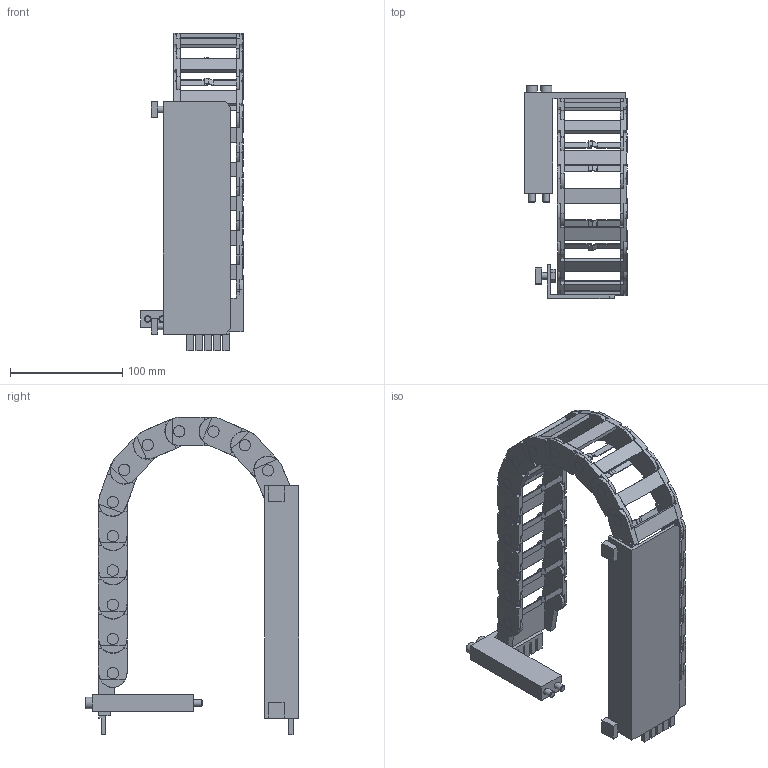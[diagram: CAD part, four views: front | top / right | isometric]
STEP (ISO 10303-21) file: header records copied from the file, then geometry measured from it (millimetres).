
FILE_DESCRIPTION( ( 'STEP AP214' ), '1' );
FILE_NAME( 'U:/Etudes/Top Solid/BIBLIO 3D AVM/STEP/STEP2007LINMOT/8319332.step', '2007-06-07T08:51:28', ( ' ' ), ( ' ' ), 'XStep 1.0', ' ', ' ' );
FILE_SCHEMA( ( 'automotive_design' ) );
Length unit declared in the file: metre
Products named in the file (19): 1; 2; 3; 4; 5; 6; 7; 8; 9; 10; 11; 12; 13; 14; 15; 16; 17; 18; 19
Bounding box: 91 x 190 x 283.21 mm (x, y, z)
Volume: 313407.5 mm3; surface area: 213574.7 mm2
Topology: 19 solids, 21 shells, 1496 faces, 4209 edges, 2805 vertices
Faces by surface type: plane 1133, cylinder 361, cone 2
Full cylindrical faces by diameter (mm): 6 x8, 6.2 x2, 6.5 x2, 10 x2
Entity records: 60501 total; most frequent: CARTESIAN_POINT 8555, ORIENTED_EDGE 8362, DIRECTION 8205, EDGE_CURVE 4181, LINE 3183, VECTOR 3183, VERTEX_POINT 2793, AXIS2_PLACEMENT_3D 2511
